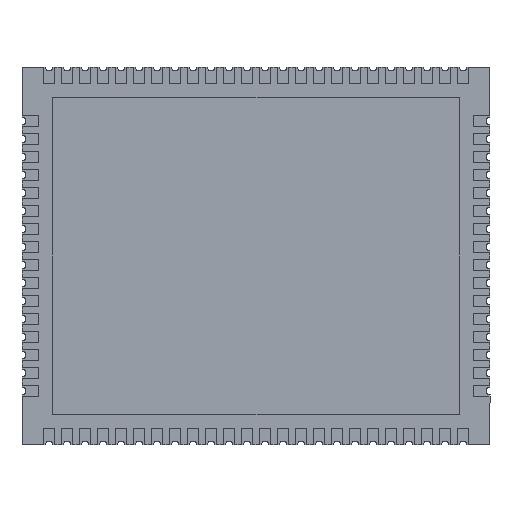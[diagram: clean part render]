
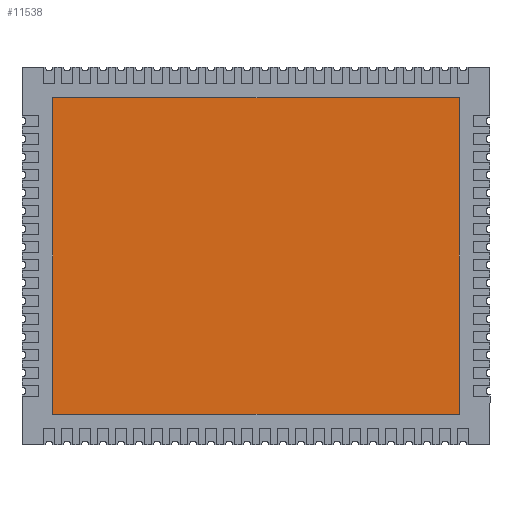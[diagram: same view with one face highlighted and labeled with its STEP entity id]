
A CAD part, front view. The second image highlights one B-rep face of the part: STEP entity #11538.
In plain terms, the highlighted planar face has unit normal (0, -1, 0).
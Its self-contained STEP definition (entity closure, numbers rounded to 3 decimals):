
#2208 = EDGE_LOOP ( 'NONE', ( #16362, #16363, #16364, #16365 ) ) ;
#8433 = VERTEX_POINT ( 'NONE', #20452 ) ;
#8434 = VERTEX_POINT ( 'NONE', #20453 ) ;
#8435 = VERTEX_POINT ( 'NONE', #20454 ) ;
#8436 = VERTEX_POINT ( 'NONE', #20455 ) ;
#11538 = ADVANCED_FACE ( 'NONE', ( #23686 ), #25218, .F. ) ;
#12882 = EDGE_CURVE ( 'NONE', #8436, #8435, #24583, .T. ) ;
#12893 = EDGE_CURVE ( 'NONE', #8433, #8434, #24595, .T. ) ;
#12897 = EDGE_CURVE ( 'NONE', #8435, #8433, #24599, .T. ) ;
#12907 = EDGE_CURVE ( 'NONE', #8434, #8436, #24604, .T. ) ;
#16362 = ORIENTED_EDGE ( 'NONE', *, *, #12893, .F. ) ;
#16363 = ORIENTED_EDGE ( 'NONE', *, *, #12897, .F. ) ;
#16364 = ORIENTED_EDGE ( 'NONE', *, *, #12882, .F. ) ;
#16365 = ORIENTED_EDGE ( 'NONE', *, *, #12907, .F. ) ;
#20452 = CARTESIAN_POINT ( 'NONE',  ( 13.022, -0.963, -10.677 ) ) ;
#20453 = CARTESIAN_POINT ( 'NONE',  ( -15.678, -0.963, -10.677 ) ) ;
#20454 = CARTESIAN_POINT ( 'NONE',  ( 13.022, -0.963, 11.673 ) ) ;
#20455 = CARTESIAN_POINT ( 'NONE',  ( -15.678, -0.963, 11.673 ) ) ;
#21454 = AXIS2_PLACEMENT_3D ( 'NONE', #25213, #25223, #25224 ) ;
#23686 = FACE_OUTER_BOUND ( 'NONE', #2208, .T. ) ;
#24583 = LINE ( 'NONE', #26450, #24584 ) ;
#24584 = VECTOR ( 'NONE', #26451, 1000. ) ;
#24595 = LINE ( 'NONE', #26462, #24596 ) ;
#24596 = VECTOR ( 'NONE', #26463, 1000. ) ;
#24599 = LINE ( 'NONE', #26466, #24600 ) ;
#24600 = VECTOR ( 'NONE', #26467, 1000. ) ;
#24604 = LINE ( 'NONE', #26474, #24609 ) ;
#24609 = VECTOR ( 'NONE', #26477, 1000. ) ;
#25213 = CARTESIAN_POINT ( 'NONE',  ( -15.678, -0.963, -10.677 ) ) ;
#25218 = PLANE ( 'NONE',  #21454 ) ;
#25223 = DIRECTION ( 'NONE',  ( 0., 1., 0. ) ) ;
#25224 = DIRECTION ( 'NONE',  ( 0., 0., 1. ) ) ;
#26450 = CARTESIAN_POINT ( 'NONE',  ( -15.678, -0.963, 11.673 ) ) ;
#26451 = DIRECTION ( 'NONE',  ( 1., 0., 0. ) ) ;
#26462 = CARTESIAN_POINT ( 'NONE',  ( 13.022, -0.963, -10.677 ) ) ;
#26463 = DIRECTION ( 'NONE',  ( -1., 0., 0. ) ) ;
#26466 = CARTESIAN_POINT ( 'NONE',  ( 13.022, -0.963, 11.673 ) ) ;
#26467 = DIRECTION ( 'NONE',  ( 0., 0., -1. ) ) ;
#26474 = CARTESIAN_POINT ( 'NONE',  ( -15.678, -0.963, -10.677 ) ) ;
#26477 = DIRECTION ( 'NONE',  ( 0., 0., 1. ) ) ;
